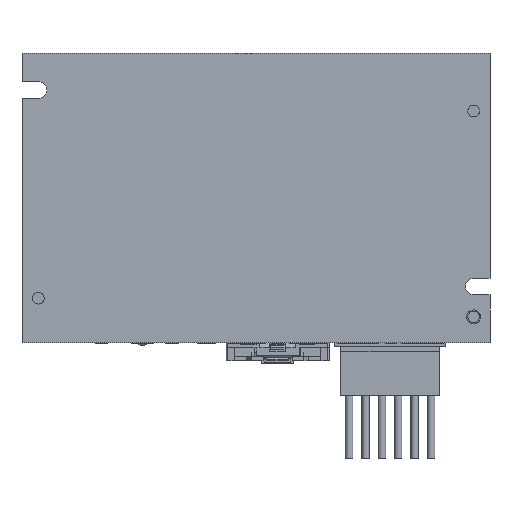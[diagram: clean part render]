
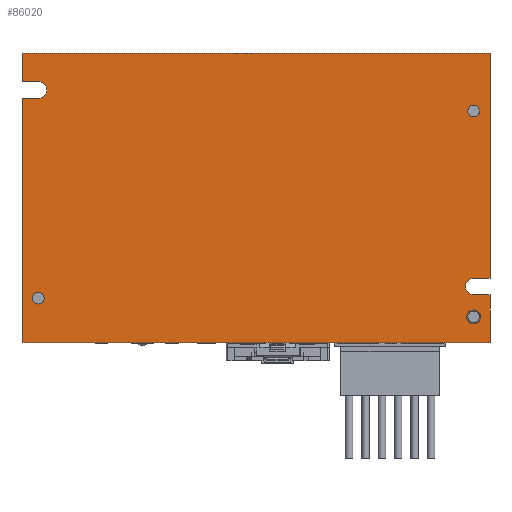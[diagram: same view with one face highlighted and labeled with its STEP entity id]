
A CAD part, front view. The second image highlights one B-rep face of the part: STEP entity #86020.
In plain terms, the highlighted planar face has unit normal (0, -1, 0).
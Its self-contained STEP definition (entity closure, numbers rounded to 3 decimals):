
#366 = CARTESIAN_POINT ( 'NONE',  ( 50., -0.5, -48.25 ) ) ;
#597 = CARTESIAN_POINT ( 'NONE',  ( -46.5, -0.5, -62. ) ) ;
#766 = EDGE_CURVE ( 'NONE', #63535, #34232, #62712, .T. ) ;
#1099 = ORIENTED_EDGE ( 'NONE', *, *, #20314, .T. ) ;
#3402 = DIRECTION ( 'NONE',  ( 0., 0., -1. ) ) ;
#4931 = DIRECTION ( 'NONE',  ( 0., 0., 1. ) ) ;
#5510 = EDGE_CURVE ( 'NONE', #56905, #56905, #113275, .T. ) ;
#6365 = ORIENTED_EDGE ( 'NONE', *, *, #51197, .T. ) ;
#8580 = CARTESIAN_POINT ( 'NONE',  ( -50., -0.5, -9.75 ) ) ;
#9811 = VERTEX_POINT ( 'NONE', #44063 ) ;
#9881 = DIRECTION ( 'NONE',  ( 1., 0., 0. ) ) ;
#10641 = VECTOR ( 'NONE', #9881, 1000. ) ;
#11548 = EDGE_CURVE ( 'NONE', #97202, #97202, #51748, .T. ) ;
#11806 = CARTESIAN_POINT ( 'NONE',  ( 50., -0.5, -62. ) ) ;
#13561 = ORIENTED_EDGE ( 'NONE', *, *, #91865, .T. ) ;
#16497 = DIRECTION ( 'NONE',  ( 0., 1., 0. ) ) ;
#17719 = DIRECTION ( 'NONE',  ( 0., 0., 1. ) ) ;
#18543 = VERTEX_POINT ( 'NONE', #22197 ) ;
#20314 = EDGE_CURVE ( 'NONE', #18543, #96910, #59565, .T. ) ;
#20557 = EDGE_LOOP ( 'NONE', ( #27128 ) ) ;
#22197 = CARTESIAN_POINT ( 'NONE',  ( -50., -0.5, -62. ) ) ;
#22260 = LINE ( 'NONE', #96195, #92774 ) ;
#22305 = EDGE_CURVE ( 'NONE', #34232, #39765, #108937, .T. ) ;
#23353 = CARTESIAN_POINT ( 'NONE',  ( -50., -0.5, -8. ) ) ;
#23412 = VECTOR ( 'NONE', #25639, 1000. ) ;
#25290 = DIRECTION ( 'NONE',  ( 0., 1., 0. ) ) ;
#25629 = ORIENTED_EDGE ( 'NONE', *, *, #93827, .T. ) ;
#25639 = DIRECTION ( 'NONE',  ( 0., 0., -1. ) ) ;
#27128 = ORIENTED_EDGE ( 'NONE', *, *, #5510, .T. ) ;
#28061 = EDGE_CURVE ( 'NONE', #72590, #67283, #104460, .T. ) ;
#28956 = EDGE_CURVE ( 'NONE', #9811, #93287, #63784, .T. ) ;
#32053 = EDGE_LOOP ( 'NONE', ( #110278 ) ) ;
#32998 = DIRECTION ( 'NONE',  ( 0., 1., 0. ) ) ;
#33846 = VERTEX_POINT ( 'NONE', #40423 ) ;
#34232 = VERTEX_POINT ( 'NONE', #92989 ) ;
#34487 = CARTESIAN_POINT ( 'NONE',  ( -50., -0.5, -8. ) ) ;
#36341 = DIRECTION ( 'NONE',  ( -1., 0., 0. ) ) ;
#37616 = EDGE_CURVE ( 'NONE', #84607, #18543, #55709, .T. ) ;
#39442 = AXIS2_PLACEMENT_3D ( 'NONE', #76612, #58519, #3402 ) ;
#39765 = VERTEX_POINT ( 'NONE', #366 ) ;
#40423 = CARTESIAN_POINT ( 'NONE',  ( -50., -0.5, -6.25 ) ) ;
#40701 = VECTOR ( 'NONE', #36341, 1000. ) ;
#40818 = FACE_BOUND ( 'NONE', #20557, .T. ) ;
#41535 = VECTOR ( 'NONE', #17719, 1000. ) ;
#42731 = ORIENTED_EDGE ( 'NONE', *, *, #22305, .T. ) ;
#43685 = FACE_BOUND ( 'NONE', #90918, .T. ) ;
#44063 = CARTESIAN_POINT ( 'NONE',  ( 50., -0.5, -0.2 ) ) ;
#44178 = AXIS2_PLACEMENT_3D ( 'NONE', #88112, #32998, #97342 ) ;
#44335 = ORIENTED_EDGE ( 'NONE', *, *, #28061, .T. ) ;
#44434 = DIRECTION ( 'NONE',  ( -1., 0., 0. ) ) ;
#48449 = CARTESIAN_POINT ( 'NONE',  ( 46.5, -0.5, -12.5 ) ) ;
#49272 = PLANE ( 'NONE',  #39442 ) ;
#51197 = EDGE_CURVE ( 'NONE', #33846, #72590, #59039, .T. ) ;
#51748 = CIRCLE ( 'NONE', #62610, 1.25 ) ;
#55168 = ORIENTED_EDGE ( 'NONE', *, *, #28956, .T. ) ;
#55709 = LINE ( 'NONE', #23353, #80225 ) ;
#56857 = ORIENTED_EDGE ( 'NONE', *, *, #11548, .T. ) ;
#56905 = VERTEX_POINT ( 'NONE', #74849 ) ;
#56910 = ORIENTED_EDGE ( 'NONE', *, *, #766, .T. ) ;
#57699 = DIRECTION ( 'NONE',  ( 0., 0., 1. ) ) ;
#58402 = VERTEX_POINT ( 'NONE', #62505 ) ;
#58519 = DIRECTION ( 'NONE',  ( 0., -1., 0. ) ) ;
#58858 = CARTESIAN_POINT ( 'NONE',  ( 46.5, -0.5, -51.75 ) ) ;
#58979 = ORIENTED_EDGE ( 'NONE', *, *, #103879, .T. ) ;
#59039 = LINE ( 'NONE', #99230, #83534 ) ;
#59565 = LINE ( 'NONE', #597, #10641 ) ;
#60013 = DIRECTION ( 'NONE',  ( 0., 1., 0. ) ) ;
#62017 = CARTESIAN_POINT ( 'NONE',  ( -46.5, -0.5, -6.25 ) ) ;
#62505 = CARTESIAN_POINT ( 'NONE',  ( 50., -0.5, -51.75 ) ) ;
#62610 = AXIS2_PLACEMENT_3D ( 'NONE', #48449, #112829, #57699 ) ;
#62645 = CARTESIAN_POINT ( 'NONE',  ( -46.5, -0.5, -9.75 ) ) ;
#62712 = CIRCLE ( 'NONE', #74810, 1.75 ) ;
#63535 = VERTEX_POINT ( 'NONE', #58858 ) ;
#63784 = LINE ( 'NONE', #108827, #88306 ) ;
#67283 = VERTEX_POINT ( 'NONE', #62645 ) ;
#69314 = ORIENTED_EDGE ( 'NONE', *, *, #85587, .T. ) ;
#70292 = CIRCLE ( 'NONE', #44178, 1.25 ) ;
#71623 = CARTESIAN_POINT ( 'NONE',  ( 46.5, -0.5, -50. ) ) ;
#72590 = VERTEX_POINT ( 'NONE', #62017 ) ;
#72920 = CARTESIAN_POINT ( 'NONE',  ( -46.5, -0.5, -9.75 ) ) ;
#74810 = AXIS2_PLACEMENT_3D ( 'NONE', #71623, #16497, #80938 ) ;
#74849 = CARTESIAN_POINT ( 'NONE',  ( 46.5, -0.5, -55.25 ) ) ;
#75259 = CARTESIAN_POINT ( 'NONE',  ( 46.5, -0.5, -11.25 ) ) ;
#76612 = CARTESIAN_POINT ( 'NONE',  ( -46.5, -0.5, -8. ) ) ;
#78173 = CARTESIAN_POINT ( 'NONE',  ( -50., -0.5, -0.2 ) ) ;
#78490 = DIRECTION ( 'NONE',  ( 0., 0., -1. ) ) ;
#79536 = EDGE_CURVE ( 'NONE', #85428, #85428, #70292, .T. ) ;
#80225 = VECTOR ( 'NONE', #78490, 1000. ) ;
#80448 = CARTESIAN_POINT ( 'NONE',  ( 46.5, -0.5, -56.5 ) ) ;
#80938 = DIRECTION ( 'NONE',  ( 0., 0., 1. ) ) ;
#83534 = VECTOR ( 'NONE', #99612, 1000. ) ;
#84452 = VECTOR ( 'NONE', #112001, 1000. ) ;
#84607 = VERTEX_POINT ( 'NONE', #8580 ) ;
#85428 = VERTEX_POINT ( 'NONE', #100964 ) ;
#85587 = EDGE_CURVE ( 'NONE', #58402, #63535, #89892, .T. ) ;
#86020 = ADVANCED_FACE ( 'NONE', ( #111353, #40818, #43685, #86867 ), #49272, .T. ) ;
#86867 = FACE_OUTER_BOUND ( 'NONE', #102370, .T. ) ;
#88112 = CARTESIAN_POINT ( 'NONE',  ( -46.5, -0.5, -52.5 ) ) ;
#88137 = ORIENTED_EDGE ( 'NONE', *, *, #100954, .T. ) ;
#88306 = VECTOR ( 'NONE', #44434, 1000. ) ;
#89220 = DIRECTION ( 'NONE',  ( -1., 0., 0. ) ) ;
#89653 = LINE ( 'NONE', #72920, #40701 ) ;
#89662 = DIRECTION ( 'NONE',  ( 0., 0., 1. ) ) ;
#89892 = LINE ( 'NONE', #108133, #111469 ) ;
#90110 = ORIENTED_EDGE ( 'NONE', *, *, #37616, .T. ) ;
#90918 = EDGE_LOOP ( 'NONE', ( #56857 ) ) ;
#91865 = EDGE_CURVE ( 'NONE', #39765, #9811, #112078, .T. ) ;
#92774 = VECTOR ( 'NONE', #105462, 1000. ) ;
#92989 = CARTESIAN_POINT ( 'NONE',  ( 46.5, -0.5, -48.25 ) ) ;
#93287 = VERTEX_POINT ( 'NONE', #78173 ) ;
#93827 = EDGE_CURVE ( 'NONE', #96910, #58402, #22260, .T. ) ;
#96195 = CARTESIAN_POINT ( 'NONE',  ( 50., -0.5, -8. ) ) ;
#96857 = LINE ( 'NONE', #34487, #23412 ) ;
#96910 = VERTEX_POINT ( 'NONE', #11806 ) ;
#97202 = VERTEX_POINT ( 'NONE', #75259 ) ;
#97342 = DIRECTION ( 'NONE',  ( 0., 0., 1. ) ) ;
#99230 = CARTESIAN_POINT ( 'NONE',  ( -46.5, -0.5, -6.25 ) ) ;
#99612 = DIRECTION ( 'NONE',  ( 1., 0., 0. ) ) ;
#100954 = EDGE_CURVE ( 'NONE', #67283, #84607, #89653, .T. ) ;
#100964 = CARTESIAN_POINT ( 'NONE',  ( -46.5, -0.5, -51.25 ) ) ;
#102370 = EDGE_LOOP ( 'NONE', ( #42731, #13561, #55168, #58979, #6365, #44335, #88137, #90110, #1099, #25629, #69314, #56910 ) ) ;
#102728 = CARTESIAN_POINT ( 'NONE',  ( -46.5, -0.5, -48.25 ) ) ;
#103551 = AXIS2_PLACEMENT_3D ( 'NONE', #115221, #60013, #4931 ) ;
#103879 = EDGE_CURVE ( 'NONE', #93287, #33846, #96857, .T. ) ;
#104460 = CIRCLE ( 'NONE', #103551, 1.75 ) ;
#105371 = AXIS2_PLACEMENT_3D ( 'NONE', #80448, #25290, #89662 ) ;
#105462 = DIRECTION ( 'NONE',  ( 0., 0., 1. ) ) ;
#108133 = CARTESIAN_POINT ( 'NONE',  ( -46.5, -0.5, -51.75 ) ) ;
#108827 = CARTESIAN_POINT ( 'NONE',  ( -46.5, -0.5, -0.2 ) ) ;
#108937 = LINE ( 'NONE', #102728, #84452 ) ;
#109537 = CARTESIAN_POINT ( 'NONE',  ( 50., -0.5, -8. ) ) ;
#110278 = ORIENTED_EDGE ( 'NONE', *, *, #79536, .T. ) ;
#111353 = FACE_BOUND ( 'NONE', #32053, .T. ) ;
#111469 = VECTOR ( 'NONE', #89220, 1000. ) ;
#112001 = DIRECTION ( 'NONE',  ( 1., 0., 0. ) ) ;
#112078 = LINE ( 'NONE', #109537, #41535 ) ;
#112829 = DIRECTION ( 'NONE',  ( 0., 1., 0. ) ) ;
#113275 = CIRCLE ( 'NONE', #105371, 1.25 ) ;
#115221 = CARTESIAN_POINT ( 'NONE',  ( -46.5, -0.5, -8. ) ) ;
